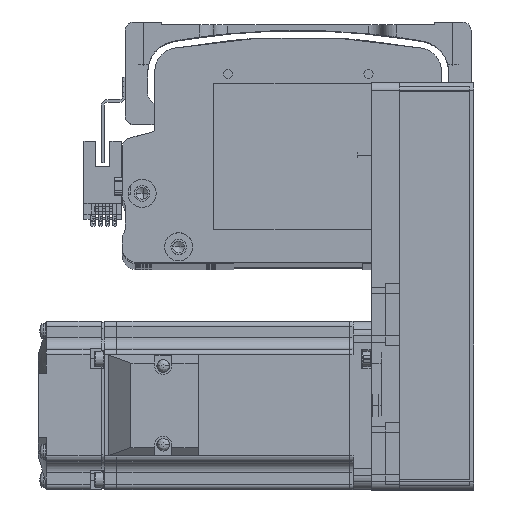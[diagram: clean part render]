
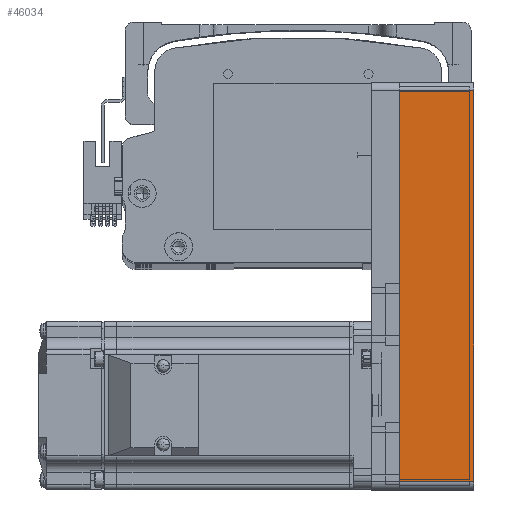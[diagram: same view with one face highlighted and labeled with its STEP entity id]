
A CAD part, top view. The second image highlights one B-rep face of the part: STEP entity #46034.
In plain terms, the highlighted planar face has unit normal (0, 0, 1) as drawn and (0, -1, 0) by its records, which use the part's own axes.
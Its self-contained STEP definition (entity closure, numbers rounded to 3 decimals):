
#3729 = LINE ( 'NONE', #59479, #19230 ) ;
#8217 = VECTOR ( 'NONE', #80124, 1000. ) ;
#14196 = CARTESIAN_POINT ( 'NONE',  ( 72.5, -30., 0. ) ) ;
#17064 = CARTESIAN_POINT ( 'NONE',  ( -69.5, -30., 0. ) ) ;
#17862 = VERTEX_POINT ( 'NONE', #44710 ) ;
#19230 = VECTOR ( 'NONE', #19879, 1000. ) ;
#19303 = ORIENTED_EDGE ( 'NONE', *, *, #20323, .F. ) ;
#19682 = DIRECTION ( 'NONE',  ( 0., 1., 0. ) ) ;
#19879 = DIRECTION ( 'NONE',  ( 0., 0., -1. ) ) ;
#20323 = EDGE_CURVE ( 'NONE', #24883, #17862, #23878, .T. ) ;
#20841 = DIRECTION ( 'NONE',  ( 1., 0., 0. ) ) ;
#23878 = LINE ( 'NONE', #32903, #56971 ) ;
#24883 = VERTEX_POINT ( 'NONE', #54222 ) ;
#26044 = PLANE ( 'NONE',  #83616 ) ;
#28111 = ORIENTED_EDGE ( 'NONE', *, *, #52505, .T. ) ;
#30125 = ORIENTED_EDGE ( 'NONE', *, *, #51284, .T. ) ;
#30252 = LINE ( 'NONE', #14196, #63460 ) ;
#32903 = CARTESIAN_POINT ( 'NONE',  ( 72.5, -30., 26.5 ) ) ;
#44710 = CARTESIAN_POINT ( 'NONE',  ( 69.5, -30., 26.5 ) ) ;
#46034 = ADVANCED_FACE ( 'NONE', ( #59284 ), #26044, .F. ) ;
#51284 = EDGE_CURVE ( 'NONE', #24883, #76564, #3729, .T. ) ;
#52505 = EDGE_CURVE ( 'NONE', #76564, #85750, #30252, .T. ) ;
#52869 = DIRECTION ( 'NONE',  ( 1., 0., 0. ) ) ;
#54222 = CARTESIAN_POINT ( 'NONE',  ( -69.5, -30., 26.5 ) ) ;
#56971 = VECTOR ( 'NONE', #52869, 1000. ) ;
#59284 = FACE_OUTER_BOUND ( 'NONE', #63825, .T. ) ;
#59287 = CARTESIAN_POINT ( 'NONE',  ( 72.5, -30., 26.5 ) ) ;
#59479 = CARTESIAN_POINT ( 'NONE',  ( -69.5, -30., 26.5 ) ) ;
#60216 = CARTESIAN_POINT ( 'NONE',  ( 69.5, -30., 26.5 ) ) ;
#63460 = VECTOR ( 'NONE', #20841, 1000. ) ;
#63825 = EDGE_LOOP ( 'NONE', ( #28111, #85898, #19303, #30125 ) ) ;
#65968 = DIRECTION ( 'NONE',  ( -1., 0., 0. ) ) ;
#66130 = EDGE_CURVE ( 'NONE', #85750, #17862, #72374, .T. ) ;
#72374 = LINE ( 'NONE', #60216, #8217 ) ;
#75294 = CARTESIAN_POINT ( 'NONE',  ( 69.5, -30., 0. ) ) ;
#76564 = VERTEX_POINT ( 'NONE', #17064 ) ;
#80124 = DIRECTION ( 'NONE',  ( 0., 0., 1. ) ) ;
#83616 = AXIS2_PLACEMENT_3D ( 'NONE', #59287, #19682, #65968 ) ;
#85750 = VERTEX_POINT ( 'NONE', #75294 ) ;
#85898 = ORIENTED_EDGE ( 'NONE', *, *, #66130, .T. ) ;
